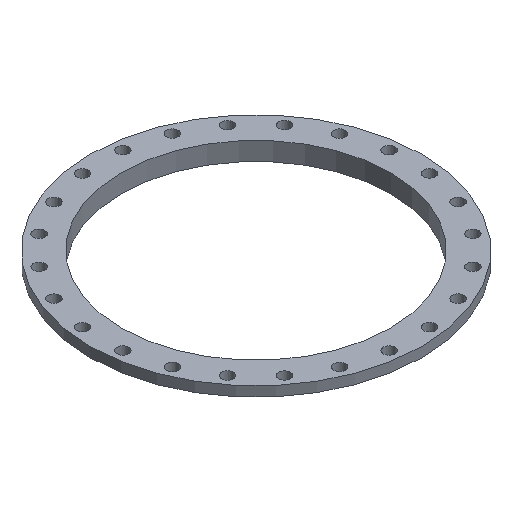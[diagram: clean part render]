
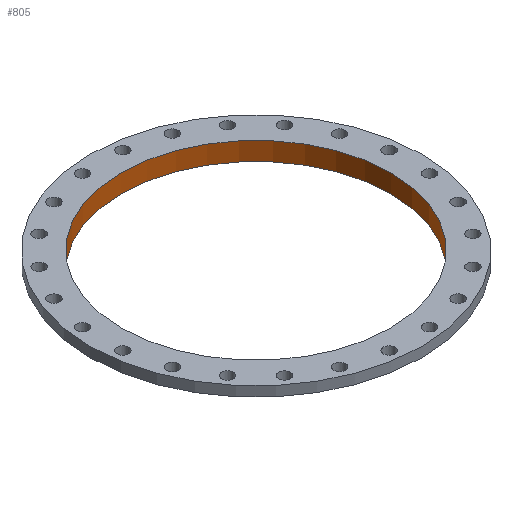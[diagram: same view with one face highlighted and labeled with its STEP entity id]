
A CAD part, isometric view. The second image highlights one B-rep face of the part: STEP entity #805.
In plain terms, the highlighted cylindrical face has radius 383 mm (diameter 766 mm), a full revolution.
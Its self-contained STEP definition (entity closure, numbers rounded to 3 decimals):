
#97=FACE_OUTER_BOUND('',#129,.T.);
#129=EDGE_LOOP('',(#655,#656,#657,#658,#659,#660));
#209=LINE('',#1423,#236);
#236=VECTOR('',#1185,383.);
#314=CIRCLE('',#932,383.);
#315=CIRCLE('',#933,383.);
#316=CIRCLE('',#935,383.);
#317=CIRCLE('',#936,383.);
#401=VERTEX_POINT('',#1417);
#402=VERTEX_POINT('',#1418);
#403=VERTEX_POINT('',#1422);
#404=VERTEX_POINT('',#1424);
#512=EDGE_CURVE('',#401,#402,#314,.T.);
#513=EDGE_CURVE('',#402,#401,#315,.T.);
#514=EDGE_CURVE('',#402,#403,#209,.T.);
#515=EDGE_CURVE('',#404,#403,#316,.T.);
#516=EDGE_CURVE('',#403,#404,#317,.T.);
#655=ORIENTED_EDGE('',*,*,#512,.T.);
#656=ORIENTED_EDGE('',*,*,#514,.T.);
#657=ORIENTED_EDGE('',*,*,#515,.F.);
#658=ORIENTED_EDGE('',*,*,#516,.F.);
#659=ORIENTED_EDGE('',*,*,#514,.F.);
#660=ORIENTED_EDGE('',*,*,#513,.T.);
#777=CYLINDRICAL_SURFACE('',#934,383.);
#805=ADVANCED_FACE('',(#97),#777,.F.);
#932=AXIS2_PLACEMENT_3D('',#1419,#1179,#1180);
#933=AXIS2_PLACEMENT_3D('',#1420,#1181,#1182);
#934=AXIS2_PLACEMENT_3D('',#1421,#1183,#1184);
#935=AXIS2_PLACEMENT_3D('',#1425,#1186,#1187);
#936=AXIS2_PLACEMENT_3D('',#1426,#1188,#1189);
#1179=DIRECTION('center_axis',(0.,0.,-1.));
#1180=DIRECTION('ref_axis',(1.,0.,0.));
#1181=DIRECTION('center_axis',(0.,0.,-1.));
#1182=DIRECTION('ref_axis',(1.,0.,0.));
#1183=DIRECTION('center_axis',(0.,0.,-1.));
#1184=DIRECTION('ref_axis',(-1.,0.,0.));
#1185=DIRECTION('',(0.,0.,1.));
#1186=DIRECTION('center_axis',(0.,0.,-1.));
#1187=DIRECTION('ref_axis',(1.,0.,0.));
#1188=DIRECTION('center_axis',(0.,0.,-1.));
#1189=DIRECTION('ref_axis',(1.,0.,0.));
#1417=CARTESIAN_POINT('',(-383.,0.,-52.));
#1418=CARTESIAN_POINT('',(383.,0.,-52.));
#1419=CARTESIAN_POINT('Origin',(0.,0.,-52.));
#1420=CARTESIAN_POINT('Origin',(0.,0.,-52.));
#1421=CARTESIAN_POINT('Origin',(0.,0.,-26.));
#1422=CARTESIAN_POINT('',(383.,0.,0.));
#1423=CARTESIAN_POINT('',(383.,0.,-26.));
#1424=CARTESIAN_POINT('',(-383.,0.,0.));
#1425=CARTESIAN_POINT('Origin',(0.,0.,0.));
#1426=CARTESIAN_POINT('Origin',(0.,0.,0.));
